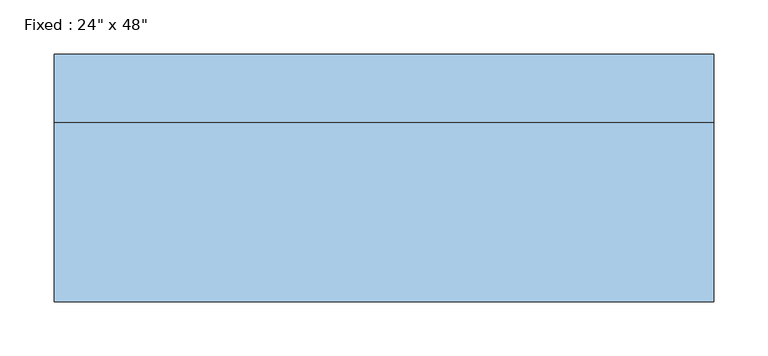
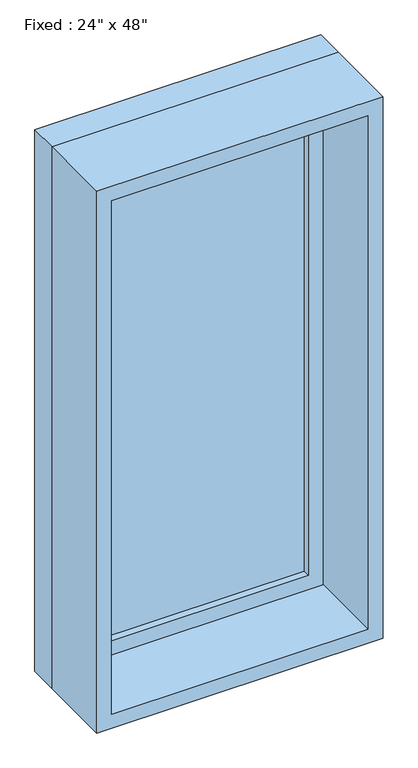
"""IFC4 building model written with IfcOpenShell, lengths in millimetres: window geometry."""

import ifcopenshell
import ifcopenshell.guid

model = None  # the IFC model being written
_history = None  # IfcOwnerHistory: only IFC2X3 demands one
_inside = {}  # id of a spatial element -> (the spatial element, [elements in it])
_under = {}  # id of a project, library or spatial element -> (it, [spatial elements below it])
_declared = {}  # id of a project -> (the project, [libraries it declares])
_typed = {}  # id of a type object -> (the type object, [elements of that type])
_made_of = {}  # id of a material, layer set ... -> (it, [elements and type objects made of it])


def new_model(schema):
    """Start an empty IFC model of exactly this schema.

    Asked for "IFC4X3", IfcOpenShell would pick the latest addendum, in which some entities
    have other attributes; the version numbers below select the first issue.
    IFC2X3 requires an IfcOwnerHistory on every rooted entity: one is made here for all.
    """
    global model, _history
    if schema == "IFC4X3":
        model = ifcopenshell.file(schema_version=(4, 3, 0, 0))
    else:
        model = ifcopenshell.file(schema=schema)
    _inside.clear()
    _under.clear()
    _declared.clear()
    _typed.clear()
    _made_of.clear()
    _history = None
    if model.schema == "IFC2X3":
        org = make("IfcOrganization", Name="unknown")
        user = make(
            "IfcPersonAndOrganization",
            ThePerson=make("IfcPerson", FamilyName="unknown"),
            TheOrganization=org,
        )
        app = make(
            "IfcApplication",
            ApplicationDeveloper=org,
            Version="unknown",
            ApplicationFullName="unknown",
            ApplicationIdentifier="unknown",
        )
        _history = make(
            "IfcOwnerHistory",
            OwningUser=user,
            OwningApplication=app,
            ChangeAction="ADDED",
            CreationDate=0,
        )
    return model


def make(cls, **values):
    """One entity of the class cls with the attributes given. An attribute that is None is left unset."""
    return model.create_entity(
        cls, **{name: value for name, value in values.items() if value is not None}
    )


def rooted(cls, **values):
    """An entity with a GlobalId (a new one), such as an element, a storey or a relation."""
    return make(cls, GlobalId=ifcopenshell.guid.new(), OwnerHistory=_history, **values)


def si_unit(unit_type, name, prefix=None):
    """IfcSIUnit, for example si_unit("LENGTHUNIT", "METRE", prefix="MILLI")."""
    return make("IfcSIUnit", UnitType=unit_type, Prefix=prefix, Name=name)


def assignment(units):
    """IfcUnitAssignment: the units of a project."""
    return None if units is None else make("IfcUnitAssignment", Units=units)


def point(xyz):
    """IfcCartesianPoint."""
    return None if xyz is None else make("IfcCartesianPoint", Coordinates=xyz)


def direction(xyz):
    """IfcDirection."""
    return None if xyz is None else make("IfcDirection", DirectionRatios=xyz)


def frame(location, z_axis=None, x_axis=None):
    """IfcAxis2Placement3D, a coordinate frame: its origin and axes. An axis left out is left unset."""
    return make(
        "IfcAxis2Placement3D",
        Location=point(location),
        Axis=direction(z_axis),
        RefDirection=direction(x_axis),
    )


def origin():
    """The frame at (0, 0, 0) with its axes left unset."""
    return frame((0.0, 0.0, 0.0))


def place(relative_to, where):
    """IfcLocalPlacement: puts the frame where relative to a parent placement (None: the world)."""
    return make(
        "IfcLocalPlacement", PlacementRelTo=relative_to, RelativePlacement=where
    )


def context(
    kind, dimensions, precision=None, world=None, true_north=None, identifier=None
):
    """IfcGeometricRepresentationContext, for example the 3D "Model" context."""
    return make(
        "IfcGeometricRepresentationContext",
        ContextIdentifier=identifier,
        ContextType=kind,
        CoordinateSpaceDimension=dimensions,
        Precision=precision,
        WorldCoordinateSystem=world,
        TrueNorth=true_north,
    )


def project(units=None, contexts=None):
    """IfcProject with its units and contexts."""
    return rooted(
        "IfcProject",
        Name="project",
        RepresentationContexts=contexts,
        UnitsInContext=assignment(units),
    )


def spatial(cls, under=None, at=None, **own):
    """A site, building, storey or space (cls), placed at a placement, below another one or the project."""
    s = rooted(cls, ObjectPlacement=at, **own)
    if under is not None:
        _under.setdefault(under.id(), (under, []))[1].append(s)
    return s


def polyline(points):
    """IfcPolyline through the points."""
    return make("IfcPolyline", Points=[point(p) for p in points])


def outline(outer, holes=None, kind="AREA"):
    """IfcArbitraryClosedProfileDef: a profile drawn as a closed curve; with holes, ...WithVoids."""
    if holes is None:
        return make("IfcArbitraryClosedProfileDef", ProfileType=kind, OuterCurve=outer)
    return make(
        "IfcArbitraryProfileDefWithVoids",
        ProfileType=kind,
        OuterCurve=outer,
        InnerCurves=holes,
    )


def extrude(swept, where, along, depth):
    """IfcExtrudedAreaSolid: the profile swept, set in the frame where, extruded along a direction by depth."""
    return make(
        "IfcExtrudedAreaSolid",
        SweptArea=swept,
        Position=where,
        ExtrudedDirection=direction(along),
        Depth=depth,
    )


def shape(context_of_items, identifier, shape_type, items):
    """IfcShapeRepresentation: the items that make up one representation, for example the "Body"."""
    return make(
        "IfcShapeRepresentation",
        ContextOfItems=context_of_items,
        RepresentationIdentifier=identifier,
        RepresentationType=shape_type,
        Items=items,
    )


def source(mapping_origin, context_of_items, identifier, shape_type, items):
    """IfcRepresentationMap: a shape defined once, which mapped items show again and again."""
    return make(
        "IfcRepresentationMap",
        MappingOrigin=mapping_origin,
        MappedRepresentation=shape(context_of_items, identifier, shape_type, items),
    )


def transform(
    local_origin,
    x_axis=None,
    y_axis=None,
    z_axis=None,
    scale=None,
    scale2=None,
    scale3=None,
    uniform=True,
):
    """IfcCartesianTransformationOperator3D, or its non-uniform kind. x_axis, y_axis, z_axis: its Axis1, 2, 3."""
    if uniform:
        return make(
            "IfcCartesianTransformationOperator3D",
            Axis1=direction(x_axis),
            Axis2=direction(y_axis),
            LocalOrigin=point(local_origin),
            Scale=scale,
            Axis3=direction(z_axis),
        )
    return make(
        "IfcCartesianTransformationOperator3DnonUniform",
        Axis1=direction(x_axis),
        Axis2=direction(y_axis),
        LocalOrigin=point(local_origin),
        Scale=scale,
        Axis3=direction(z_axis),
        Scale2=scale2,
        Scale3=scale3,
    )


def mapped(mapping_source, mapping_target):
    """IfcMappedItem: shows the shape of a source again, moved by a transform."""
    return make(
        "IfcMappedItem", MappingSource=mapping_source, MappingTarget=mapping_target
    )


def made_of(thing, what):
    """Note that an element or type object is made of a material, layer set ...; save() writes the relation."""
    if what is not None:
        _made_of.setdefault(what.id(), (what, []))[1].append(thing)
    return thing


def element(
    cls,
    number,
    at=None,
    inside=None,
    cuts=None,
    type_object=None,
    material=None,
    context=None,
    identifier="Body",
    shape_type=None,
    held_by="IfcProductDefinitionShape",
    body=None,
    shapes=None,
    **own,
):
    """One element of the class cls, such as IfcWall. Its Tag is "e" and its number.

    at: its placement. inside: the storey or other place that contains it. cuts: it is an
    opening in that element (IfcRelVoidsElement). A single representation is given by context,
    identifier, shape_type and body (its items); several are given by shapes. held_by: the class
    of the entity that holds the representations. save() writes the other relations.
    """
    e = rooted(cls, Tag="e%d" % number, ObjectPlacement=at, **own)
    if body is not None:
        shapes = [shape(context, identifier, shape_type, body)]
    if shapes is not None:
        e.Representation = make(held_by, Representations=shapes)
    if inside is not None:
        _inside.setdefault(inside.id(), (inside, []))[1].append(e)
    if cuts is not None:
        rooted(
            "IfcRelVoidsElement", RelatingBuildingElement=cuts, RelatedOpeningElement=e
        )
    if type_object is not None:
        _typed.setdefault(type_object.id(), (type_object, []))[1].append(e)
    return made_of(e, material)


def aggregate(whole, parts):
    """IfcRelAggregates: a whole, such as a stair, and the parts it consists of."""
    return rooted("IfcRelAggregates", RelatingObject=whole, RelatedObjects=parts)


def save(model, path):
    """Write the relations noted so far, then the file.

    IfcRelAggregates (storeys below a building ...), IfcRelContainedInSpatialStructure (elements
    in a storey), IfcRelDefinesByType, IfcRelAssociatesMaterial and IfcRelDeclares: one each for
    every whole, place, type object, material and project.
    """
    for whole, parts in _under.values():
        aggregate(whole, parts)
    for where, things in _inside.values():
        rooted(
            "IfcRelContainedInSpatialStructure",
            RelatedElements=things,
            RelatingStructure=where,
        )
    for kind, things in _typed.values():
        rooted("IfcRelDefinesByType", RelatedObjects=things, RelatingType=kind)
    for what, things in _made_of.values():
        rooted("IfcRelAssociatesMaterial", RelatedObjects=things, RelatingMaterial=what)
    for by, libraries in _declared.values():
        rooted("IfcRelDeclares", RelatingContext=by, RelatedDefinitions=libraries)
    model.write(path)


def window_c82808a1(model_context):
    return source(origin(), model_context, "Body", "SweptSolid", [
        extrude(outline(polyline([(203.2, 66.675), (-279.4, 66.675), (-279.4, 79.375), (203.2, 79.375), (203.2, 66.675)])), frame((0.0, 0.0, 977.9), z_axis=(0.0, 0.0, 1.0), x_axis=(1.0, 0.0, 0.0)), (0.0, 0.0, 1.0), 1092.2),
        extrude(outline(polyline([(2114.55, -323.85), (933.45, -323.85), (933.45, 247.65), (2114.55, 247.65), (2114.55, -323.85)]), holes=[polyline([(2070.1, -279.4), (2070.1, 203.2), (977.9, 203.2), (977.9, -279.4), (2070.1, -279.4)])]), frame((0.0, 50.8, 0.0), z_axis=(0.0, 1.0, 0.0), x_axis=(0.0, 0.0, 1.0)), (0.0, 0.0, 1.0), 44.45),
        extrude(outline(polyline([(2133.6, -342.9), (914.4, -342.9), (914.4, 266.7), (2133.6, 266.7), (2133.6, -342.9)]), holes=[polyline([(2101.85, -311.15), (2101.85, 234.95), (946.15, 234.95), (946.15, -311.15), (2101.85, -311.15)])]), frame((0.0, -114.3, 0.0), z_axis=(0.0, 1.0, 0.0), x_axis=(0.0, 0.0, 1.0)), (0.0, 0.0, 1.0), 165.1),
        extrude(outline(polyline([(2133.6, 266.7), (2133.6, -342.9), (914.4, -342.9), (914.4, 266.7), (2133.6, 266.7)]), holes=[polyline([(2114.55, 247.65), (933.45, 247.65), (933.45, -323.85), (2114.55, -323.85), (2114.55, 247.65)])]), frame((0.0, 50.8, 0.0), z_axis=(0.0, 1.0, 0.0), x_axis=(0.0, 0.0, 1.0)), (0.0, 0.0, 1.0), 63.5),
    ])


if __name__ == "__main__":
    model = new_model("IFC4")
    model_context = context("Model", 3, world=origin())
    ifc_project = project(units=[si_unit("LENGTHUNIT", "METRE", prefix="MILLI")], contexts=[model_context])
    site = spatial("IfcSite", under=ifc_project)
    building = spatial("IfcBuilding", under=site)
    placement = place(None, origin())
    window_shape = window_c82808a1(model_context)
    element("IfcWindow", 1, ObjectType="Fixed : 24\" x 48\"", at=placement, inside=building, context=model_context, shape_type="MappedRepresentation", body=[
        mapped(window_shape, transform((0.0, 0.0, 0.0), x_axis=(1.0, 0.0, 0.0), y_axis=(0.0, 1.0, 0.0), z_axis=(0.0, 0.0, 1.0))),
    ])
    save(model, "model.ifc")
